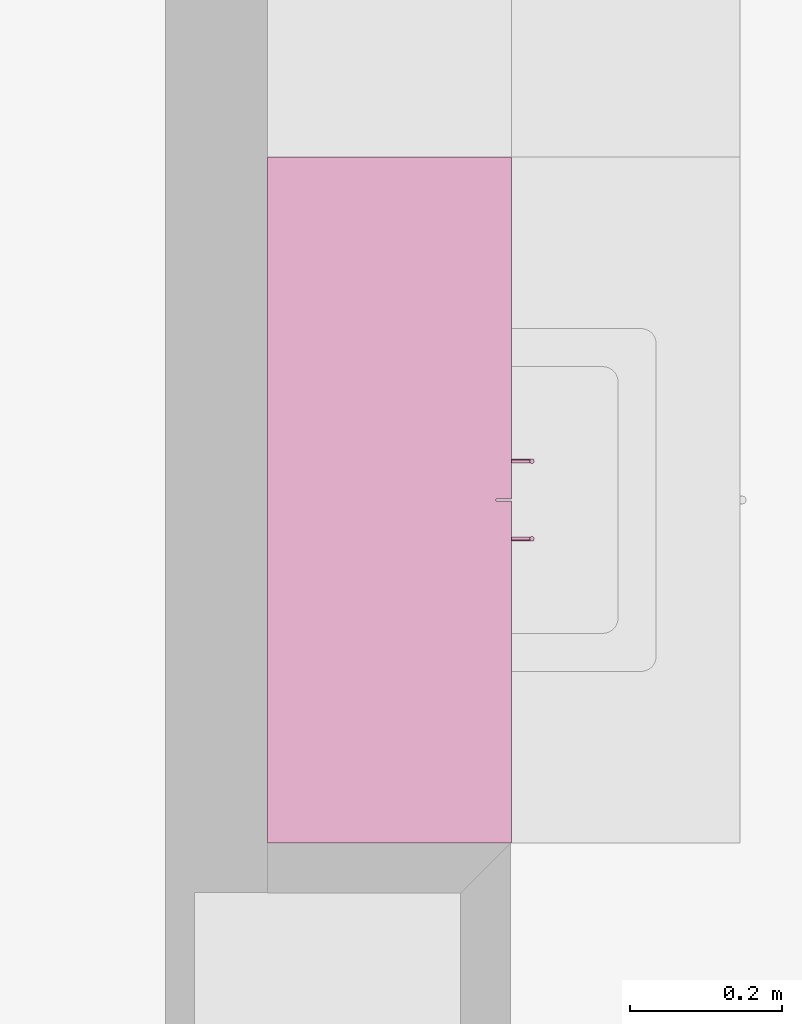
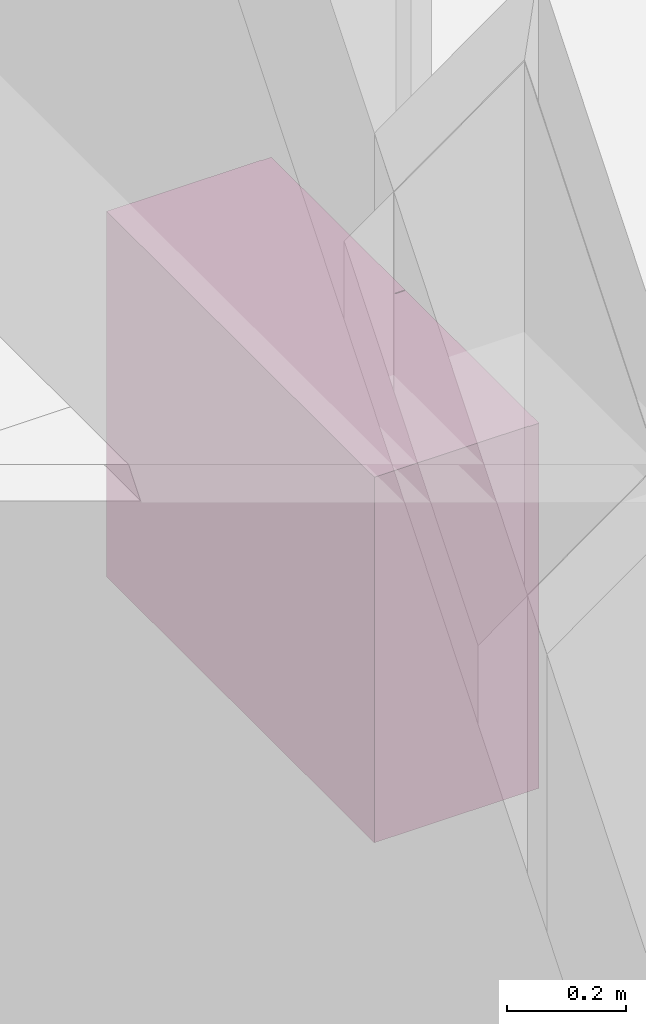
# One storey, part 66 of 68: 1 furnishing.
"""IFC2X3 building model written with IfcOpenShell, lengths in millimetres."""

from ifc_helpers import new_model, entity, si_unit, converted_unit, derived_unit, money_unit, direction, frame, origin_with_axes, place, context, subcontext, project, spatial, open_shell, faceted_brep, surface_model, type_object, element, save


model = new_model("IFC2X3")

# Units and contexts
model_context = context("Model", 3, precision=0.01, world=origin_with_axes(), true_north=direction((0.0, 1.0)))
body_context = subcontext(model_context, "Body", "Model", "MODEL_VIEW")
ifc_project = project(units=[si_unit("LENGTHUNIT", "METRE", prefix="MILLI"), si_unit("AREAUNIT", "SQUARE_METRE"), si_unit("VOLUMEUNIT", "CUBIC_METRE"), converted_unit("PLANEANGLEUNIT", "DEGREE", entity("IfcPlaneAngleMeasure", 0.0174532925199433), si_unit("PLANEANGLEUNIT", "RADIAN"), dimensions=[0, 0, 0, 0, 0, 0, 0]), money_unit("USD"), converted_unit("TIMEUNIT", "Year", entity("IfcTimeMeasure", 31557600.0), si_unit("TIMEUNIT", "SECOND"), dimensions=[0, 0, 1, 0, 0, 0, 0]), si_unit("MASSUNIT", "GRAM", prefix="KILO"), si_unit("THERMODYNAMICTEMPERATUREUNIT", "DEGREE_CELSIUS"), si_unit("LUMINOUSINTENSITYUNIT", "LUMEN"), si_unit("ENERGYUNIT", "JOULE", prefix="MEGA"), derived_unit("THERMALCONDUCTANCEUNIT", [(si_unit("POWERUNIT", "WATT"), 1), (si_unit("LENGTHUNIT", "METRE"), -1), (si_unit("THERMODYNAMICTEMPERATUREUNIT", "KELVIN"), -1)]), derived_unit("SPECIFICHEATCAPACITYUNIT", [(si_unit("ENERGYUNIT", "JOULE"), 1), (si_unit("MASSUNIT", "GRAM", prefix="KILO"), -1), (si_unit("THERMODYNAMICTEMPERATUREUNIT", "KELVIN"), -1)]), derived_unit("MASSDENSITYUNIT", [(si_unit("MASSUNIT", "GRAM", prefix="KILO"), 1), (si_unit("VOLUMEUNIT", "CUBIC_METRE"), -1)])], contexts=[model_context])

# Site, building, storey
site_placement = place(None, origin_with_axes())
site = spatial("IfcSite", under=ifc_project, at=site_placement, Name="Sitio", CompositionType="ELEMENT")
building_placement = place(site_placement, origin_with_axes())
building = spatial("IfcBuilding", under=site, at=building_placement, Name="Construcción", CompositionType="ELEMENT")
storey_placement = place(building_placement, origin_with_axes())
storey = spatial("IfcBuildingStorey", under=building, at=storey_placement, Name="PLANTA 1ª", CompositionType="ELEMENT", Elevation=0.0)

# Furnishing
furnishing_element_type = type_object("IfcFurnishingElementType", Name="Armario Mural 2P 10")
furnishing_placement = place(storey_placement, frame((824.8910778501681, -1123.975659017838, 1500.0), z_axis=(0.0, 0.0, 1.0), x_axis=(0.0, 1.0, 0.0)))
element("IfcFurnishingElement", 1, at=furnishing_placement, inside=storey, type_object=furnishing_element_type, Name="60.20.66 Armari", context=body_context, shape_type="SurfaceModel", body=[
    faceted_brep([(0.0, 0.0, 730.0), (20.0, 0.0, 730.0), (20.0, 0.0, 750.0), (0.0, 0.0, 750.0), (0.0, 299.9999999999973, 730.0), (20.0, 299.9999999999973, 730.0), (879.9999999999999, 299.9999999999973, 730.0), (899.9999999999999, 299.9999999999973, 730.0), (899.9999999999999, 0.0, 730.0), (879.9999999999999, 0.0, 730.0), (879.9999999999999, 0.0, 750.0), (899.9999999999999, 0.0, 750.0), (899.9999999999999, 299.9999999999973, 750.0), (879.9999999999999, 299.9999999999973, 750.0), (20.0, 299.9999999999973, 750.0), (0.0, 299.9999999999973, 750.0)], [[[0, 1, 2, 3]], [[0, 4, 5, 6, 7, 8, 9, 1]], [[1, 9, 10, 2]], [[3, 2, 10, 11, 12, 13, 14, 15]], [[4, 0, 3, 15]], [[5, 4, 15, 14]], [[6, 5, 14, 13]], [[7, 6, 13, 12]], [[8, 7, 12, 11]], [[9, 8, 11, 10]]]),
    faceted_brep([(0.0, 0.0, 0.0), (20.0, 0.0, 0.0), (20.0, 0.0, 20.0), (0.0, 0.0, 20.0), (0.0, 299.9999999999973, 0.0), (20.0, 299.9999999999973, 0.0), (879.9999999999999, 299.9999999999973, 0.0), (899.9999999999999, 299.9999999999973, 0.0), (899.9999999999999, 0.0, 0.0), (879.9999999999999, 0.0, 0.0), (879.9999999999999, 0.0, 20.0), (899.9999999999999, 0.0, 20.0), (899.9999999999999, 299.9999999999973, 20.0), (879.9999999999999, 299.9999999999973, 20.0), (20.0, 299.9999999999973, 20.0), (0.0, 299.9999999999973, 20.0)], [[[0, 1, 2, 3]], [[0, 4, 5, 6, 7, 8, 9, 1]], [[1, 9, 10, 2]], [[3, 2, 10, 11, 12, 13, 14, 15]], [[4, 0, 3, 15]], [[5, 4, 15, 14]], [[6, 5, 14, 13]], [[7, 6, 13, 12]], [[8, 7, 12, 11]], [[9, 8, 11, 10]]]),
    faceted_brep([(0.0, 0.0, 20.0), (20.0, 0.0, 20.0), (20.0, 0.0, 730.0), (0.0, 0.0, 730.0), (0.0, 299.9999999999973, 20.0), (899.9999999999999, 299.9999999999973, 20.0), (899.9999999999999, 0.0, 20.0), (879.9999999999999, 0.0, 20.0), (879.9999999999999, 279.9999999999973, 20.0), (20.0, 279.9999999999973, 20.0), (20.0, 279.9999999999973, 730.0), (879.9999999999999, 279.9999999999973, 730.0), (879.9999999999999, 0.0, 730.0), (899.9999999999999, 0.0, 730.0), (899.9999999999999, 299.9999999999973, 730.0), (0.0, 299.9999999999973, 730.0)], [[[0, 1, 2, 3]], [[0, 4, 5, 6, 7, 8, 9, 1]], [[1, 9, 10, 2]], [[3, 2, 10, 11, 12, 13, 14, 15]], [[4, 0, 3, 15]], [[5, 4, 15, 14]], [[6, 5, 14, 13]], [[7, 6, 13, 12]], [[8, 7, 12, 11]], [[9, 8, 11, 10]]]),
    faceted_brep([(879.9999999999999, 0.0, 230.0), (879.9999999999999, 279.9999999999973, 230.0), (879.9999999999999, 279.9999999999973, 250.0), (879.9999999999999, 0.0, 250.0), (20.0, 0.0, 230.0), (20.0, 279.9999999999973, 230.0), (20.0, 279.9999999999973, 250.0), (20.0, 0.0, 250.0)], [[[0, 1, 2, 3]], [[0, 4, 5, 1]], [[1, 5, 6, 2]], [[3, 2, 6, 7]], [[4, 0, 3, 7]], [[5, 4, 7, 6]]]),
    faceted_brep([(879.9999999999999, 0.0, 480.0), (879.9999999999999, 279.9999999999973, 480.0), (879.9999999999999, 279.9999999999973, 500.0), (879.9999999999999, 0.0, 500.0), (20.0, 0.0, 480.0), (20.0, 279.9999999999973, 480.0), (20.0, 279.9999999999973, 500.0), (20.0, 0.0, 500.0)], [[[0, 1, 2, 3]], [[0, 4, 5, 1]], [[1, 5, 6, 2]], [[3, 2, 6, 7]], [[4, 0, 3, 7]], [[5, 4, 7, 6]]]),
    faceted_brep([(0.0, 0.0, 0.0), (448.9999999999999, 0.0, 0.0), (448.9999999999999, -20.0, 0.0), (0.0, -20.0, 0.0), (0.0, 0.0, 749.0), (448.9999999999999, 0.0, 749.0), (448.9999999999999, -19.99999999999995, 749.0), (0.0, -19.99999999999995, 749.0)], [[[0, 1, 2, 3]], [[0, 4, 5, 1]], [[1, 5, 6, 2]], [[3, 2, 6, 7]], [[4, 0, 3, 7]], [[5, 4, 7, 6]]]),
    faceted_brep([(401.8977774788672, -47.77645713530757, 50.00000000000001), (401.5980762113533, -48.50000000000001, 50.00000000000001), (401.1213203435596, -49.12132034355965, 50.00000000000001), (400.4999999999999, -49.59807621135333, 50.00000000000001), (399.7764571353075, -49.89777747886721, 50.00000000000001), (398.9999999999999, -50.00000000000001, 50.00000000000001), (398.2235428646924, -49.89777747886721, 50.00000000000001), (397.4999999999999, -49.59807621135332, 50.00000000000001), (396.8786796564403, -49.12132034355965, 50.00000000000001), (396.4019237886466, -48.50000000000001, 50.00000000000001), (396.1022225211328, -47.77645713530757, 50.00000000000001), (395.9999999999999, -47.00000000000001, 50.00000000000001), (396.1022225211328, -46.22354286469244, 50.00000000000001), (396.4019237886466, -45.50000000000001, 50.00000000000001), (396.8786796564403, -44.87867965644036, 50.00000000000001), (397.4999999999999, -44.40192378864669, 50.00000000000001), (398.2235428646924, -44.1022225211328, 50.00000000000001), (398.9999999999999, -44.00000000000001, 50.00000000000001), (399.7764571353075, -44.1022225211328, 50.00000000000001), (400.4999999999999, -44.40192378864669, 50.00000000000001), (401.1213203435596, -44.87867965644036, 50.00000000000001), (401.5980762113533, -45.50000000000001, 50.00000000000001), (401.8977774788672, -46.22354286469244, 50.00000000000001), (401.9999999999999, -47.00000000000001, 50.00000000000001), (401.8977774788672, -47.77645713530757, 150.0), (401.5980762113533, -48.50000000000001, 150.0), (401.1213203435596, -49.12132034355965, 150.0), (400.4999999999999, -49.59807621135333, 150.0), (399.7764571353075, -49.89777747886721, 150.0), (398.9999999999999, -50.00000000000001, 150.0), (398.2235428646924, -49.89777747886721, 150.0), (397.4999999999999, -49.59807621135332, 150.0), (396.8786796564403, -49.12132034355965, 150.0), (396.4019237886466, -48.50000000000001, 150.0), (396.1022225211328, -47.77645713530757, 150.0), (395.9999999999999, -47.00000000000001, 150.0), (396.1022225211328, -46.22354286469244, 150.0), (396.4019237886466, -45.50000000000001, 150.0), (396.8786796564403, -44.87867965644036, 150.0), (397.4999999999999, -44.40192378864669, 150.0), (398.2235428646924, -44.1022225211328, 150.0), (398.9999999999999, -44.00000000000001, 150.0), (399.7764571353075, -44.1022225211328, 150.0), (400.4999999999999, -44.40192378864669, 150.0), (401.1213203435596, -44.87867965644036, 150.0), (401.5980762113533, -45.50000000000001, 150.0), (401.8977774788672, -46.22354286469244, 150.0), (401.9999999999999, -47.00000000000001, 150.0)], [[[0, 1, 2, 3, 4, 5, 6, 7, 8, 9, 10, 11, 12, 13, 14, 15, 16, 17, 18, 19, 20, 21, 22, 23]], [[1, 0, 24, 25]], [[2, 1, 25, 26]], [[3, 2, 26, 27]], [[4, 3, 27, 28]], [[5, 4, 28, 29]], [[6, 5, 29, 30]], [[7, 6, 30, 31]], [[8, 7, 31, 32]], [[9, 8, 32, 33]], [[10, 9, 33, 34]], [[11, 10, 34, 35]], [[12, 11, 35, 36]], [[13, 12, 36, 37]], [[14, 13, 37, 38]], [[15, 14, 38, 39]], [[16, 15, 39, 40]], [[17, 16, 40, 41]], [[18, 17, 41, 42]], [[19, 18, 42, 43]], [[20, 19, 43, 44]], [[21, 20, 44, 45]], [[22, 21, 45, 46]], [[23, 22, 46, 47]], [[0, 23, 47, 24]], [[24, 47, 46, 45, 44, 43, 42, 41, 40, 39, 38, 37, 36, 35, 34, 33, 32, 31, 30, 29, 28, 27, 26, 25]]]),
    surface_model("IfcShellBasedSurfaceModel", [(399.6470476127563, -44.07060938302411, 72.58518543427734), (398.9999999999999, -44.0, 72.50000000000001), (398.9999999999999, -20.0, 72.50000000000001), (399.6470476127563, -20.0, 72.58518543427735), (398.3529523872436, -44.07060938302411, 72.58518543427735), (398.3529523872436, -20.0, 72.58518543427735), (397.75, -20.0, 72.83493649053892), (397.2322330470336, -20.0, 73.23223304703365), (396.8349364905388, -20.0, 73.75000000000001), (396.5851854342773, -20.0, 74.3529523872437), (396.4999999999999, -20.0, 75.00000000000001), (396.5851854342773, -20.0, 75.64704761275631), (396.8349364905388, -20.0, 76.25000000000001), (397.2322330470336, -20.0, 76.76776695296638), (397.75, -20.0, 77.1650635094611), (398.3529523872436, -20.0, 77.4148145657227), (398.9999999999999, -20.0, 77.50000000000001), (399.6470476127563, -20.0, 77.4148145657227), (400.2499999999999, -20.0, 77.1650635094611), (400.7677669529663, -20.0, 76.76776695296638), (401.165063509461, -20.0, 76.25000000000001), (401.4148145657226, -20.0, 75.64704761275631), (401.4999999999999, -20.0, 75.00000000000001), (401.4148145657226, -20.0, 74.3529523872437), (401.165063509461, -20.0, 73.75000000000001), (400.7677669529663, -20.0, 73.23223304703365), (400.25, -20.0, 72.83493649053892), (400.25, -44.27282197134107, 72.83493649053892), (397.75, -44.27282197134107, 72.83493649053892), (397.2322330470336, -44.57616007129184, 73.23223304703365), (396.8349364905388, -44.92334403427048, 73.75000000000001), (396.5851854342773, -45.21992398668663, 74.3529523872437), (396.4999999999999, -45.3416876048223, 75.00000000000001), (396.5851854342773, -45.21992398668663, 75.64704761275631), (396.8349364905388, -44.92334403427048, 76.25000000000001), (397.2322330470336, -44.57616007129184, 76.76776695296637), (397.75, -44.27282197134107, 77.1650635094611), (398.3529523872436, -44.07060938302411, 77.41481456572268), (398.9999999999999, -44.0, 77.50000000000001), (399.6470476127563, -44.07060938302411, 77.4148145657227), (400.2499999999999, -44.27282197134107, 77.1650635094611), (400.7677669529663, -44.57616007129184, 76.76776695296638), (401.165063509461, -44.92334403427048, 76.25000000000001), (401.4148145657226, -45.21992398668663, 75.64704761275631), (401.4999999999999, -45.3416876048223, 75.00000000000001), (401.4148145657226, -45.21992398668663, 74.3529523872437), (401.165063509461, -44.92334403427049, 73.75000000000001), (400.7677669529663, -44.57616007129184, 73.23223304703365)], [open_shell([[[0, 1, 2, 3]], [[1, 4, 5, 2]], [[3, 2, 5, 6, 7, 8, 9, 10, 11, 12, 13, 14, 15, 16, 17, 18, 19, 20, 21, 22, 23, 24, 25, 26]], [[27, 0, 3, 26]], [[4, 28, 6, 5]], [[28, 29, 7, 6]], [[29, 30, 8, 7]], [[30, 31, 9, 8]], [[31, 32, 10, 9]], [[32, 33, 11, 10]], [[33, 34, 12, 11]], [[34, 35, 13, 12]], [[35, 36, 14, 13]], [[36, 37, 15, 14]], [[37, 38, 16, 15]], [[38, 39, 17, 16]], [[39, 40, 18, 17]], [[40, 41, 19, 18]], [[41, 42, 20, 19]], [[42, 43, 21, 20]], [[43, 44, 22, 21]], [[44, 45, 23, 22]], [[45, 46, 24, 23]], [[46, 47, 25, 24]], [[47, 27, 26, 25]]])]),
    surface_model("IfcShellBasedSurfaceModel", [(399.6470476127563, -44.07060938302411, 122.5851854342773), (398.9999999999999, -44.0, 122.5), (398.9999999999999, -20.0, 122.5), (399.6470476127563, -20.0, 122.5851854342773), (398.3529523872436, -44.07060938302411, 122.5851854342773), (398.3529523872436, -20.0, 122.5851854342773), (397.75, -20.0, 122.8349364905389), (397.2322330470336, -20.0, 123.2322330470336), (396.8349364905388, -20.0, 123.75), (396.5851854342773, -20.0, 124.3529523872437), (396.4999999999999, -20.0, 125.0), (396.5851854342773, -20.0, 125.6470476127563), (396.8349364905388, -20.0, 126.25), (397.2322330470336, -20.0, 126.7677669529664), (397.75, -20.0, 127.1650635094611), (398.3529523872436, -20.0, 127.4148145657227), (398.9999999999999, -20.0, 127.5), (399.6470476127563, -20.0, 127.4148145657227), (400.2499999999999, -20.0, 127.1650635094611), (400.7677669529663, -20.0, 126.7677669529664), (401.165063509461, -20.0, 126.25), (401.4148145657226, -20.0, 125.6470476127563), (401.4999999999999, -20.0, 125.0), (401.4148145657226, -20.0, 124.3529523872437), (401.165063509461, -20.0, 123.75), (400.7677669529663, -20.0, 123.2322330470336), (400.25, -20.0, 122.8349364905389), (400.25, -44.27282197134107, 122.8349364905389), (397.75, -44.27282197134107, 122.8349364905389), (397.2322330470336, -44.57616007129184, 123.2322330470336), (396.8349364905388, -44.92334403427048, 123.75), (396.5851854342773, -45.21992398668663, 124.3529523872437), (396.4999999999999, -45.3416876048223, 125.0), (396.5851854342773, -45.21992398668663, 125.6470476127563), (396.8349364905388, -44.92334403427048, 126.25), (397.2322330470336, -44.57616007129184, 126.7677669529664), (397.75, -44.27282197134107, 127.1650635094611), (398.3529523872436, -44.07060938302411, 127.4148145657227), (398.9999999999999, -44.0, 127.5), (399.6470476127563, -44.07060938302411, 127.4148145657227), (400.2499999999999, -44.27282197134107, 127.1650635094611), (400.7677669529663, -44.57616007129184, 126.7677669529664), (401.165063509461, -44.92334403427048, 126.25), (401.4148145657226, -45.21992398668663, 125.6470476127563), (401.4999999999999, -45.3416876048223, 125.0), (401.4148145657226, -45.21992398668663, 124.3529523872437), (401.165063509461, -44.92334403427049, 123.75), (400.7677669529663, -44.57616007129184, 123.2322330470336)], [open_shell([[[0, 1, 2, 3]], [[1, 4, 5, 2]], [[3, 2, 5, 6, 7, 8, 9, 10, 11, 12, 13, 14, 15, 16, 17, 18, 19, 20, 21, 22, 23, 24, 25, 26]], [[27, 0, 3, 26]], [[4, 28, 6, 5]], [[28, 29, 7, 6]], [[29, 30, 8, 7]], [[30, 31, 9, 8]], [[31, 32, 10, 9]], [[32, 33, 11, 10]], [[33, 34, 12, 11]], [[34, 35, 13, 12]], [[35, 36, 14, 13]], [[36, 37, 15, 14]], [[37, 38, 16, 15]], [[38, 39, 17, 16]], [[39, 40, 18, 17]], [[40, 41, 19, 18]], [[41, 42, 20, 19]], [[42, 43, 21, 20]], [[43, 44, 22, 21]], [[44, 45, 23, 22]], [[45, 46, 24, 23]], [[46, 47, 25, 24]], [[47, 27, 26, 25]]])]),
    faceted_brep([(899.9999999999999, 0.0, 0.0), (899.9999999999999, -20.0, 0.0), (451.0, -20.0, 0.0), (451.0, 0.0, 0.0), (899.9999999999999, 0.0, 749.0), (899.9999999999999, -19.99999999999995, 749.0), (451.0, -19.99999999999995, 749.0), (451.0, 0.0, 749.0)], [[[0, 1, 2, 3]], [[4, 5, 1, 0]], [[1, 5, 6, 2]], [[3, 2, 6, 7]], [[0, 3, 7, 4]], [[7, 6, 5, 4]]]),
    faceted_brep([(498.1022225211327, -47.77645713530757, 50.00000000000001), (497.9999999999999, -47.00000000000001, 50.00000000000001), (498.1022225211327, -46.22354286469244, 50.00000000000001), (498.4019237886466, -45.50000000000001, 50.00000000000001), (498.8786796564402, -44.87867965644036, 50.00000000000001), (499.4999999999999, -44.40192378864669, 50.00000000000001), (500.2235428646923, -44.1022225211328, 50.00000000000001), (500.9999999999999, -44.00000000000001, 50.00000000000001), (501.7764571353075, -44.1022225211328, 50.00000000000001), (502.4999999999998, -44.40192378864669, 50.00000000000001), (503.1213203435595, -44.87867965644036, 50.00000000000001), (503.5980762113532, -45.50000000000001, 50.00000000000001), (503.8977774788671, -46.22354286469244, 50.00000000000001), (503.9999999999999, -47.00000000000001, 50.00000000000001), (503.8977774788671, -47.77645713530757, 50.00000000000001), (503.5980762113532, -48.50000000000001, 50.00000000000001), (503.1213203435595, -49.12132034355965, 50.00000000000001), (502.4999999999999, -49.59807621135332, 50.00000000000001), (501.7764571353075, -49.89777747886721, 50.00000000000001), (500.9999999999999, -50.00000000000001, 50.00000000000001), (500.2235428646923, -49.89777747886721, 50.00000000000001), (499.4999999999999, -49.59807621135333, 50.00000000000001), (498.8786796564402, -49.12132034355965, 50.00000000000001), (498.4019237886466, -48.50000000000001, 50.00000000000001), (498.1022225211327, -47.77645713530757, 150.0), (497.9999999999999, -47.00000000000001, 150.0), (498.1022225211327, -46.22354286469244, 150.0), (498.4019237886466, -45.50000000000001, 150.0), (498.8786796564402, -44.87867965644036, 150.0), (499.4999999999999, -44.40192378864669, 150.0), (500.2235428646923, -44.1022225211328, 150.0), (500.9999999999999, -44.00000000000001, 150.0), (501.7764571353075, -44.1022225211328, 150.0), (502.4999999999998, -44.40192378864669, 150.0), (503.1213203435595, -44.87867965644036, 150.0), (503.5980762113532, -45.50000000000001, 150.0), (503.8977774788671, -46.22354286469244, 150.0), (503.9999999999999, -47.00000000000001, 150.0), (503.8977774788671, -47.77645713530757, 150.0), (503.5980762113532, -48.50000000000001, 150.0), (503.1213203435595, -49.12132034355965, 150.0), (502.4999999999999, -49.59807621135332, 150.0), (501.7764571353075, -49.89777747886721, 150.0), (500.9999999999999, -50.00000000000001, 150.0), (500.2235428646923, -49.89777747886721, 150.0), (499.4999999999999, -49.59807621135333, 150.0), (498.8786796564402, -49.12132034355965, 150.0), (498.4019237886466, -48.50000000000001, 150.0)], [[[0, 1, 2, 3, 4, 5, 6, 7, 8, 9, 10, 11, 12, 13, 14, 15, 16, 17, 18, 19, 20, 21, 22, 23]], [[0, 24, 25, 1]], [[1, 25, 26, 2]], [[2, 26, 27, 3]], [[3, 27, 28, 4]], [[4, 28, 29, 5]], [[5, 29, 30, 6]], [[6, 30, 31, 7]], [[7, 31, 32, 8]], [[8, 32, 33, 9]], [[9, 33, 34, 10]], [[10, 34, 35, 11]], [[11, 35, 36, 12]], [[12, 36, 37, 13]], [[13, 37, 38, 14]], [[14, 38, 39, 15]], [[15, 39, 40, 16]], [[16, 40, 41, 17]], [[17, 41, 42, 18]], [[18, 42, 43, 19]], [[19, 43, 44, 20]], [[20, 44, 45, 21]], [[21, 45, 46, 22]], [[22, 46, 47, 23]], [[23, 47, 24, 0]], [[24, 47, 46, 45, 44, 43, 42, 41, 40, 39, 38, 37, 36, 35, 34, 33, 32, 31, 30, 29, 28, 27, 26, 25]]]),
    surface_model("IfcShellBasedSurfaceModel", [(500.3529523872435, -44.07060938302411, 72.58518543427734), (500.3529523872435, -20.0, 72.58518543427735), (500.9999999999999, -20.0, 72.50000000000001), (500.9999999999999, -44.0, 72.50000000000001), (499.7499999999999, -44.27282197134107, 72.83493649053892), (499.7499999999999, -20.0, 72.83493649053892), (499.2322330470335, -20.0, 73.23223304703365), (498.8349364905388, -20.0, 73.75000000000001), (498.5851854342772, -20.0, 74.3529523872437), (498.4999999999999, -20.0, 75.00000000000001), (498.5851854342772, -20.0, 75.64704761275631), (498.8349364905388, -20.0, 76.25000000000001), (499.2322330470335, -20.0, 76.76776695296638), (499.7499999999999, -20.0, 77.1650635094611), (500.3529523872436, -20.0, 77.4148145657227), (500.9999999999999, -20.0, 77.50000000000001), (501.6470476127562, -20.0, 77.4148145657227), (502.2499999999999, -20.0, 77.1650635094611), (502.7677669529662, -20.0, 76.76776695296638), (503.165063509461, -20.0, 76.25000000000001), (503.4148145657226, -20.0, 75.64704761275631), (503.4999999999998, -20.0, 75.00000000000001), (503.4148145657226, -20.0, 74.3529523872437), (503.165063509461, -20.0, 73.75000000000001), (502.7677669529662, -20.0, 73.23223304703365), (502.2499999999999, -20.0, 72.83493649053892), (501.6470476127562, -20.0, 72.58518543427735), (501.6470476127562, -44.07060938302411, 72.58518543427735), (499.2322330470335, -44.57616007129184, 73.23223304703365), (498.8349364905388, -44.92334403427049, 73.75000000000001), (498.5851854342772, -45.21992398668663, 74.3529523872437), (498.4999999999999, -45.3416876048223, 75.00000000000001), (498.5851854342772, -45.21992398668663, 75.64704761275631), (498.8349364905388, -44.92334403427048, 76.25000000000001), (499.2322330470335, -44.57616007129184, 76.76776695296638), (499.7499999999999, -44.27282197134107, 77.1650635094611), (500.3529523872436, -44.07060938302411, 77.4148145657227), (500.9999999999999, -44.0, 77.50000000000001), (501.6470476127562, -44.07060938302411, 77.41481456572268), (502.2499999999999, -44.27282197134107, 77.1650635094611), (502.7677669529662, -44.57616007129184, 76.76776695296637), (503.165063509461, -44.92334403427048, 76.25000000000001), (503.4148145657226, -45.21992398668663, 75.64704761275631), (503.4999999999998, -45.3416876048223, 75.00000000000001), (503.4148145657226, -45.21992398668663, 74.3529523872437), (503.165063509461, -44.92334403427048, 73.75000000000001), (502.7677669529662, -44.57616007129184, 73.23223304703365), (502.2499999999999, -44.27282197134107, 72.83493649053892)], [open_shell([[[0, 1, 2, 3]], [[4, 5, 1, 0]], [[1, 5, 6, 7, 8, 9, 10, 11, 12, 13, 14, 15, 16, 17, 18, 19, 20, 21, 22, 23, 24, 25, 26, 2]], [[3, 2, 26, 27]], [[28, 6, 5, 4]], [[29, 7, 6, 28]], [[30, 8, 7, 29]], [[31, 9, 8, 30]], [[32, 10, 9, 31]], [[33, 11, 10, 32]], [[34, 12, 11, 33]], [[35, 13, 12, 34]], [[36, 14, 13, 35]], [[37, 15, 14, 36]], [[38, 16, 15, 37]], [[39, 17, 16, 38]], [[40, 18, 17, 39]], [[41, 19, 18, 40]], [[42, 20, 19, 41]], [[43, 21, 20, 42]], [[44, 22, 21, 43]], [[45, 23, 22, 44]], [[46, 24, 23, 45]], [[47, 25, 24, 46]], [[27, 26, 25, 47]]])]),
    surface_model("IfcShellBasedSurfaceModel", [(500.3529523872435, -44.07060938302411, 122.5851854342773), (500.3529523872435, -20.0, 122.5851854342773), (500.9999999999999, -20.0, 122.5), (500.9999999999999, -44.0, 122.5), (499.7499999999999, -44.27282197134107, 122.8349364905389), (499.7499999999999, -20.0, 122.8349364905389), (499.2322330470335, -20.0, 123.2322330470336), (498.8349364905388, -20.0, 123.75), (498.5851854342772, -20.0, 124.3529523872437), (498.4999999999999, -20.0, 125.0), (498.5851854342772, -20.0, 125.6470476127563), (498.8349364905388, -20.0, 126.25), (499.2322330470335, -20.0, 126.7677669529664), (499.7499999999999, -20.0, 127.1650635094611), (500.3529523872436, -20.0, 127.4148145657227), (500.9999999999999, -20.0, 127.5), (501.6470476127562, -20.0, 127.4148145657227), (502.2499999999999, -20.0, 127.1650635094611), (502.7677669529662, -20.0, 126.7677669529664), (503.165063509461, -20.0, 126.25), (503.4148145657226, -20.0, 125.6470476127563), (503.4999999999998, -20.0, 125.0), (503.4148145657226, -20.0, 124.3529523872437), (503.165063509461, -20.0, 123.75), (502.7677669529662, -20.0, 123.2322330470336), (502.2499999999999, -20.0, 122.8349364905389), (501.6470476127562, -20.0, 122.5851854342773), (501.6470476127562, -44.07060938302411, 122.5851854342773), (499.2322330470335, -44.57616007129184, 123.2322330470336), (498.8349364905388, -44.92334403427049, 123.75), (498.5851854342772, -45.21992398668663, 124.3529523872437), (498.4999999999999, -45.3416876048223, 125.0), (498.5851854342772, -45.21992398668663, 125.6470476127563), (498.8349364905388, -44.92334403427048, 126.25), (499.2322330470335, -44.57616007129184, 126.7677669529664), (499.7499999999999, -44.27282197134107, 127.1650635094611), (500.3529523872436, -44.07060938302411, 127.4148145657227), (500.9999999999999, -44.0, 127.5), (501.6470476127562, -44.07060938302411, 127.4148145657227), (502.2499999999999, -44.27282197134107, 127.1650635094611), (502.7677669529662, -44.57616007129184, 126.7677669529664), (503.165063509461, -44.92334403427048, 126.25), (503.4148145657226, -45.21992398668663, 125.6470476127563), (503.4999999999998, -45.3416876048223, 125.0), (503.4148145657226, -45.21992398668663, 124.3529523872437), (503.165063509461, -44.92334403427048, 123.75), (502.7677669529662, -44.57616007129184, 123.2322330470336), (502.2499999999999, -44.27282197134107, 122.8349364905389)], [open_shell([[[0, 1, 2, 3]], [[4, 5, 1, 0]], [[1, 5, 6, 7, 8, 9, 10, 11, 12, 13, 14, 15, 16, 17, 18, 19, 20, 21, 22, 23, 24, 25, 26, 2]], [[3, 2, 26, 27]], [[28, 6, 5, 4]], [[29, 7, 6, 28]], [[30, 8, 7, 29]], [[31, 9, 8, 30]], [[32, 10, 9, 31]], [[33, 11, 10, 32]], [[34, 12, 11, 33]], [[35, 13, 12, 34]], [[36, 14, 13, 35]], [[37, 15, 14, 36]], [[38, 16, 15, 37]], [[39, 17, 16, 38]], [[40, 18, 17, 39]], [[41, 19, 18, 40]], [[42, 20, 19, 41]], [[43, 21, 20, 42]], [[44, 22, 21, 43]], [[45, 23, 22, 44]], [[46, 24, 23, 45]], [[47, 25, 24, 46]], [[27, 26, 25, 47]]])]),
])

save(model, "model.ifc")
